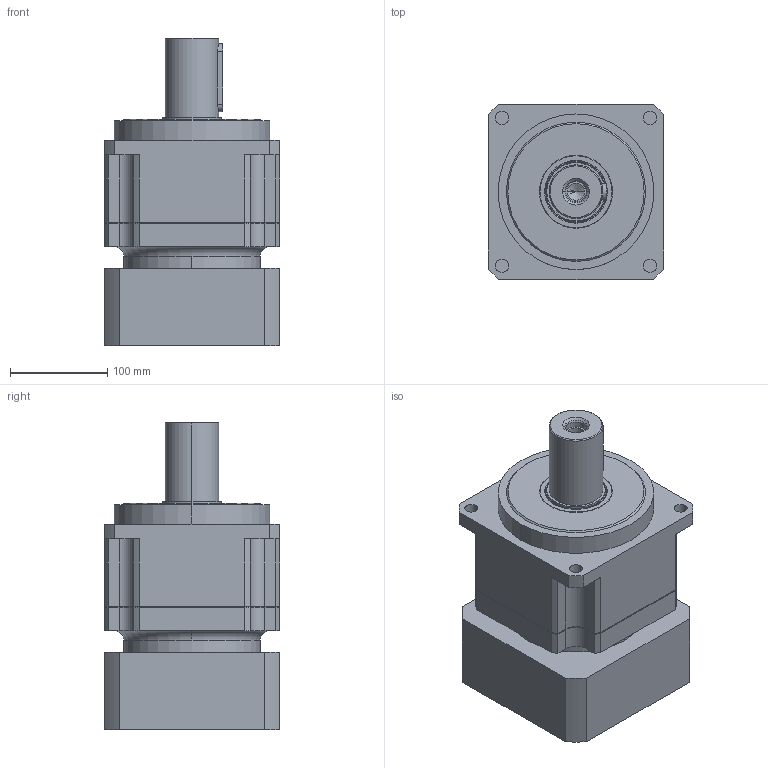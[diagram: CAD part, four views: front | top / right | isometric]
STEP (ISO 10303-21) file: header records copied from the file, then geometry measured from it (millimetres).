
FILE_DESCRIPTION (( 'STEP AP203' ), '1' );
FILE_NAME ('PAG180-L1-42-114.3-200.STEP', '2022-07-18T09:03:31', ( 'Windows User' ), ( 'P R C' ), 'SwSTEP 2.0', 'SolidWorks 2016', '' );
FILE_SCHEMA (( 'CONFIG_CONTROL_DESIGN' ));
Length unit declared in the file: millimetre
Products named in the file (7): PAG180薊粣ん-42; PAG180 一级连接板 180匡 114.3x10 200xM12 80L 目录_D4-114.3 D7-200 D8-M12 A2-180 L5-10 L6-83(45+38) R-117 标准; 邧埴瑩 16x10x70; TC60-75-9_TC-34.9-55-7; 内六角圆柱头螺钉M10×35; PAG180-L1-42-114.3-200; PAG180齿圈转架
Assembly tree (6 placements, depth 2):
  PAG180-L1-42-114.3-200
    PAG180齿圈转架
    PAG180薊粣ん-42
    PAG180 一级连接板 180匡 114.3x10 200xM12 80L 目录_D4-114.3 D7-200 D8-M12 A2-180 L5-10 L6-83(45+38) R-117 标准
    邧埴瑩 16x10x70
    TC60-75-9_TC-34.9-55-7
    内六角圆柱头螺钉M10×35
Bounding box: 180 x 180 x 316.5 mm (x, y, z)
Volume: 5896915.8 mm3; surface area: 460837.2 mm2
Topology: 6 solids, 6 shells, 1017 faces, 2671 edges, 1742 vertices
Faces by surface type: plane 580, cylinder 197, bspline 158, cone 62, torus 20
Entity records: 39307 total; most frequent: CARTESIAN_POINT 14178, ORIENTED_EDGE 5282, DIRECTION 4544, EDGE_CURVE 2641, LINE 1788, VECTOR 1788, VERTEX_POINT 1742, AXIS2_PLACEMENT_3D 1378
